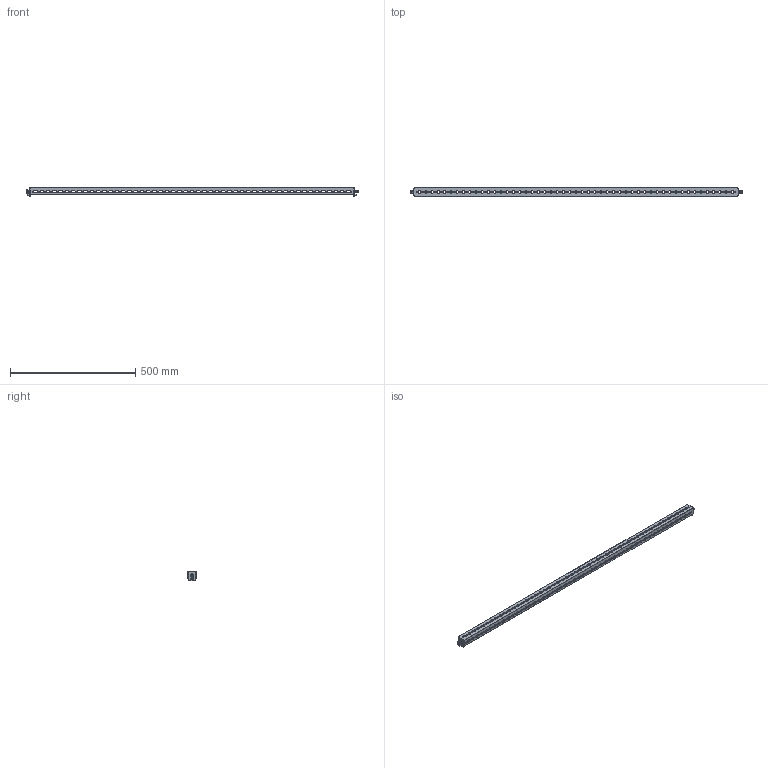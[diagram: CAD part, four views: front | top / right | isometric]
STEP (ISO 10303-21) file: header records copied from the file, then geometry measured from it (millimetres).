
FILE_DESCRIPTION(('Open CASCADE Model'),'2;1');
FILE_NAME('Open CASCADE Shape Model','2025-02-21T11:48:20',('Author'),( 'Open CASCADE'),'Open CASCADE STEP processor 7.8','Open CASCADE 7.8' ,'Unknown');
FILE_SCHEMA(('AUTOMOTIVE_DESIGN { 1 0 10303 214 1 1 1 1 }'));
Length unit declared in the file: millimetre
Products named in the file (5): Compound1; Solid1; Solid2; Solid3; Solid4
Assembly tree (7 placements, depth 2):
  Compound1
    Solid1
    Solid2  x2
    Solid3  x2
    Solid4  x2
Bounding box: 1327.6 x 34 x 38.5 mm (x, y, z)
Volume: 155487.6 mm3; surface area: 224621.3 mm2
Topology: 9 solids, 9 shells, 3046 faces, 8984 edges, 5954 vertices
Faces by surface type: cylinder 1772, plane 1134, bspline 80, torus 32, cone 24, sphere 4
Full cylindrical faces by diameter (mm): 4.2 x156, 5 x4, 5.5 x2, 6 x2, 6.5 x4, 8.3 x2, 9.5 x2, 12 x2
Entity records: 100597 total; most frequent: CARTESIAN_POINT 19950, DIRECTION 17366, ORIENTED_EDGE 16962, EDGE_CURVE 8481, AXIS2_PLACEMENT_3D 6389, VERTEX_POINT 5646, LINE 4588, VECTOR 4588
